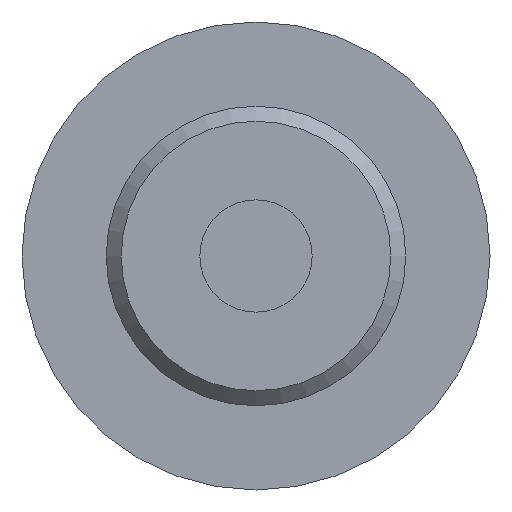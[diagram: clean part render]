
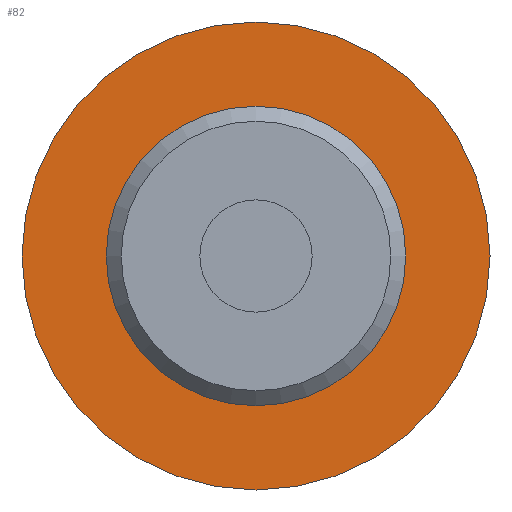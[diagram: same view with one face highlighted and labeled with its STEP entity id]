
A CAD part, front view. The second image highlights one B-rep face of the part: STEP entity #82.
In plain terms, the highlighted planar face has unit normal (0, -1, 0).
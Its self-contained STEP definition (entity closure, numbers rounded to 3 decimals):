
#82 = ADVANCED_FACE( '', ( #126, #127 ), #128, .F. );
#126 = FACE_BOUND( '', #202, .T. );
#127 = FACE_OUTER_BOUND( '', #203, .T. );
#128 = PLANE( '', #204 );
#202 = EDGE_LOOP( '', ( #299 ) );
#203 = EDGE_LOOP( '', ( #300 ) );
#204 = AXIS2_PLACEMENT_3D( '', #301, #302, #303 );
#299 = ORIENTED_EDGE( '', *, *, #488, .F. );
#300 = ORIENTED_EDGE( '', *, *, #489, .T. );
#301 = CARTESIAN_POINT( '', ( 12.5, 0., 0. ) );
#302 = DIRECTION( '', ( 0., 1., 0. ) );
#303 = DIRECTION( '', ( 0., 0., 1. ) );
#488 = EDGE_CURVE( '', #559, #559, #560, .T. );
#489 = EDGE_CURVE( '', #561, #561, #562, .T. );
#559 = VERTEX_POINT( '', #671 );
#560 = CIRCLE( '', #672, 8. );
#561 = VERTEX_POINT( '', #673 );
#562 = CIRCLE( '', #674, 12.5 );
#671 = CARTESIAN_POINT( '', ( 0., 0., -8. ) );
#672 = AXIS2_PLACEMENT_3D( '', #820, #821, #822 );
#673 = CARTESIAN_POINT( '', ( 0., 0., -12.5 ) );
#674 = AXIS2_PLACEMENT_3D( '', #823, #824, #825 );
#820 = CARTESIAN_POINT( '', ( 0., 0., 0. ) );
#821 = DIRECTION( '', ( 0., -1., 0. ) );
#822 = DIRECTION( '', ( 0., 0., -1. ) );
#823 = CARTESIAN_POINT( '', ( 0., 0., 0. ) );
#824 = DIRECTION( '', ( 0., -1., 0. ) );
#825 = DIRECTION( '', ( 0., 0., -1. ) );
